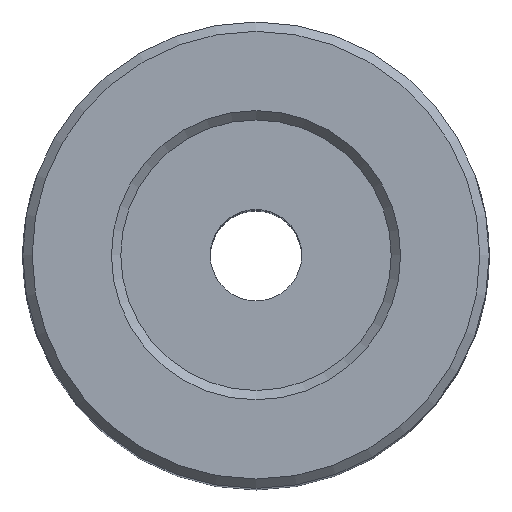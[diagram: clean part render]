
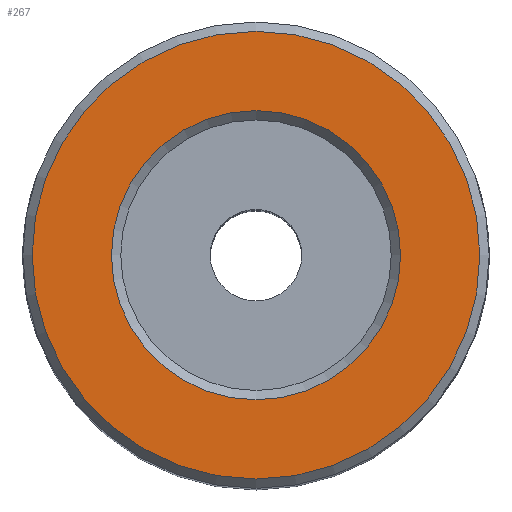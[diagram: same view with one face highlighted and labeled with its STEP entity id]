
A CAD part, top view. The second image highlights one B-rep face of the part: STEP entity #267.
In plain terms, the highlighted planar face has unit normal (0, 0, 1).
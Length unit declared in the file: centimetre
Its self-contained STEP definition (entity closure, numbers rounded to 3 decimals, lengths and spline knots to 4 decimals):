
#111=PLANE('',#286);
#129=VERTEX_POINT('',#425);
#130=VERTEX_POINT('',#428);
#143=CIRCLE('',#285,1.2192);
#144=CIRCLE('',#287,0.7874);
#155=EDGE_CURVE('',#129,#129,#143,.T.);
#156=EDGE_CURVE('',#130,#130,#144,.T.);
#177=ORIENTED_EDGE('',*,*,#156,.T.);
#178=ORIENTED_EDGE('',*,*,#155,.F.);
#213=EDGE_LOOP('',(#177));
#214=EDGE_LOOP('',(#178));
#243=FACE_BOUND('',#213,.T.);
#244=FACE_BOUND('',#214,.T.);
#267=ADVANCED_FACE('',(#243,#244),#111,.T.);
#285=AXIS2_PLACEMENT_3D('',#424,#1108,#1109);
#286=AXIS2_PLACEMENT_3D('',#426,#1110,$);
#287=AXIS2_PLACEMENT_3D('',#427,#1111,#1112);
#424=CARTESIAN_POINT('',(0.,0.,2.54));
#425=CARTESIAN_POINT('',(1.2192,0.,2.54));
#426=CARTESIAN_POINT('',(0.,0.,2.54));
#427=CARTESIAN_POINT('',(0.,0.,2.54));
#428=CARTESIAN_POINT('',(0.7874,0.,2.54));
#1108=DIRECTION('',(0.,0.,-1.));
#1109=DIRECTION('',(-1.219,0.,0.));
#1110=DIRECTION('',(0.,0.,1.));
#1111=DIRECTION('',(0.,0.,-1.));
#1112=DIRECTION('',(0.787,0.,0.));
